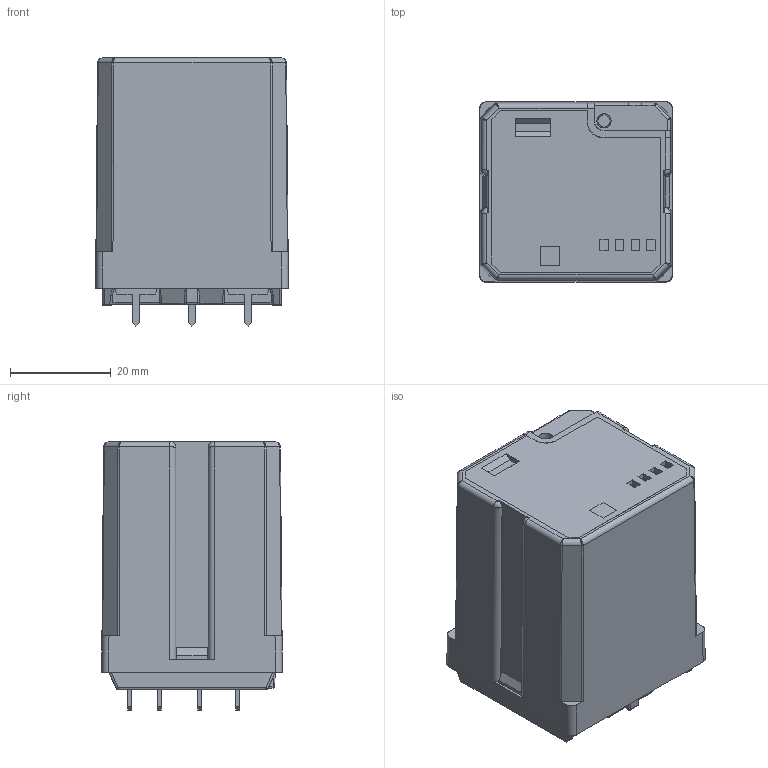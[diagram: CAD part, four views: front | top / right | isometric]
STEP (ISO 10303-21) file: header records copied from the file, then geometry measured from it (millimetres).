
FILE_DESCRIPTION(('STEP AP214'),'2;1');
FILE_NAME('6223.stp','2011-09-07T16:44:29',(''),(''),'2007.1.106','THINKDESIGN','');
FILE_SCHEMA(('AUTOMOTIVE_DESIGN'));
Length unit declared in the file: millimetre
Products named in the file (1): None
Bounding box: 38.2 x 35.8 x 53.11 mm (x, y, z)
Surface area: 11138.4 mm2 (no closed solid volume)
Topology: 0 solids, 0 shells, 490 faces, 2707 edges, 2678 vertices
Faces by surface type: plane 310, cylinder 118, bspline 62
Full cylindrical faces by diameter (mm): 5 x1
Entity records: 30212 total; most frequent: CARTESIAN_POINT 10848, DIRECTION 3255, COMPOSITE_CURVE_SEGMENT 2683, TRIMMED_CURVE 2253, VECTOR 2111, LINE 2111, AXIS2_PLACEMENT_3D 572, OUTER_BOUNDARY_CURVE 490
